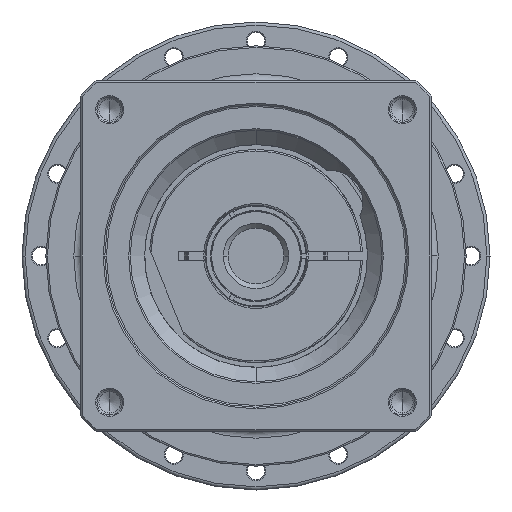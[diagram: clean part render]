
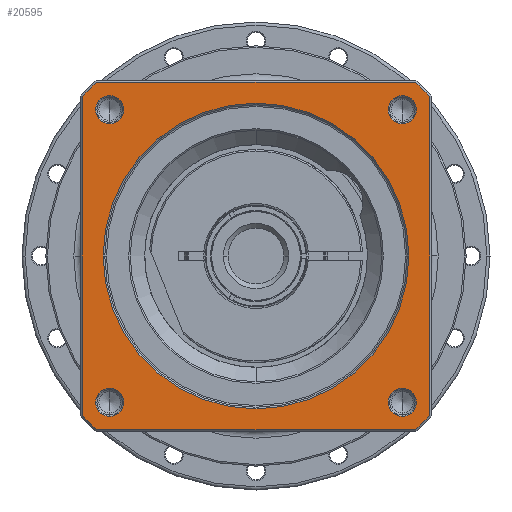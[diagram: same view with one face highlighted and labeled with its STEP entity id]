
A CAD part, left-side view. The second image highlights one B-rep face of the part: STEP entity #20595.
In plain terms, the highlighted planar face has unit normal (-1, 0, 0) as drawn and (0, 0, 1) by its records, which use the part's own axes.
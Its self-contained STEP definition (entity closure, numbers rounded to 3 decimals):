
#19361=CARTESIAN_POINT('',(0.,0.,
36.));
#19362=DIRECTION('',(0.,0.,-1.));
#19363=DIRECTION('',(0.,-1.,0.));
#19364=AXIS2_PLACEMENT_3D('',#19361,#19362,#19363);
#19366=CARTESIAN_POINT('',(0.,0.,
36.));
#19367=DIRECTION('',(0.,0.,-1.));
#19368=DIRECTION('',(0.,1.,0.));
#19369=AXIS2_PLACEMENT_3D('',#19366,#19367,#19368);
#19371=CARTESIAN_POINT('',(0.,0.,36.));
#19372=DIRECTION('',(0.,0.,1.));
#19373=DIRECTION('',(-0.736,-0.676,0.));
#19374=AXIS2_PLACEMENT_3D('',#19371,#19372,#19373);
#19386=DIRECTION('',(1.,0.,0.));
#19387=VECTOR('',#19386,100.115);
#19388=CARTESIAN_POINT('',(-50.057,-54.5,36.));
#19389=LINE('',#19388,#19387);
#19399=CARTESIAN_POINT('',(0.,0.,36.));
#19400=DIRECTION('',(0.,0.,1.));
#19401=DIRECTION('',(0.676,-0.736,0.));
#19402=AXIS2_PLACEMENT_3D('',#19399,#19400,#19401);
#19414=DIRECTION('',(0.,1.,0.));
#19415=VECTOR('',#19414,100.115);
#19416=CARTESIAN_POINT('',(54.5,-50.057,36.));
#19417=LINE('',#19416,#19415);
#19427=CARTESIAN_POINT('',(0.,0.,36.));
#19428=DIRECTION('',(0.,0.,1.));
#19429=DIRECTION('',(0.736,0.676,0.));
#19430=AXIS2_PLACEMENT_3D('',#19427,#19428,#19429);
#19442=DIRECTION('',(-1.,0.,0.));
#19443=VECTOR('',#19442,100.115);
#19444=CARTESIAN_POINT('',(50.057,54.5,36.));
#19445=LINE('',#19444,#19443);
#19450=CARTESIAN_POINT('',(0.,0.,36.));
#19451=DIRECTION('',(0.,0.,1.));
#19452=DIRECTION('',(-0.676,0.736,0.));
#19453=AXIS2_PLACEMENT_3D('',#19450,#19451,#19452);
#19470=DIRECTION('',(0.,-1.,0.));
#19471=VECTOR('',#19470,100.115);
#19472=CARTESIAN_POINT('',(-54.5,50.057,36.));
#19473=LINE('',#19472,#19471);
#19897=CARTESIAN_POINT('',(-45.962,45.962,36.));
#19898=DIRECTION('',(0.,0.,1.));
#19899=DIRECTION('',(-1.,0.,0.));
#19900=AXIS2_PLACEMENT_3D('',#19897,#19898,#19899);
#19915=CARTESIAN_POINT('',(-45.962,45.962,36.));
#19916=DIRECTION('',(0.,0.,1.));
#19917=DIRECTION('',(1.,0.,0.));
#19918=AXIS2_PLACEMENT_3D('',#19915,#19916,#19917);
#19951=CARTESIAN_POINT('',(45.962,45.962,36.));
#19952=DIRECTION('',(0.,0.,1.));
#19953=DIRECTION('',(-1.,0.,0.));
#19954=AXIS2_PLACEMENT_3D('',#19951,#19952,#19953);
#19969=CARTESIAN_POINT('',(45.962,45.962,36.));
#19970=DIRECTION('',(0.,0.,1.));
#19971=DIRECTION('',(1.,0.,0.));
#19972=AXIS2_PLACEMENT_3D('',#19969,#19970,#19971);
#20005=CARTESIAN_POINT('',(45.962,-45.962,36.));
#20006=DIRECTION('',(0.,0.,1.));
#20007=DIRECTION('',(-1.,0.,0.));
#20008=AXIS2_PLACEMENT_3D('',#20005,#20006,#20007);
#20023=CARTESIAN_POINT('',(45.962,-45.962,36.));
#20024=DIRECTION('',(0.,0.,1.));
#20025=DIRECTION('',(1.,0.,0.));
#20026=AXIS2_PLACEMENT_3D('',#20023,#20024,#20025);
#20059=CARTESIAN_POINT('',(-45.962,-45.962,36.));
#20060=DIRECTION('',(0.,0.,1.));
#20061=DIRECTION('',(-1.,0.,0.));
#20062=AXIS2_PLACEMENT_3D('',#20059,#20060,#20061);
#20077=CARTESIAN_POINT('',(-45.962,-45.962,36.));
#20078=DIRECTION('',(0.,0.,1.));
#20079=DIRECTION('',(1.,0.,0.));
#20080=AXIS2_PLACEMENT_3D('',#20077,#20078,#20079);
#20113=CARTESIAN_POINT('',(54.5,-50.057,36.));
#20114=CARTESIAN_POINT('',(54.5,50.057,36.));
#20115=VERTEX_POINT('',#20113);
#20116=VERTEX_POINT('',#20114);
#20121=CARTESIAN_POINT('',(50.057,-54.5,36.));
#20122=VERTEX_POINT('',#20121);
#20125=CARTESIAN_POINT('',(-50.057,-54.5,36.));
#20126=VERTEX_POINT('',#20125);
#20129=CARTESIAN_POINT('',(-54.5,-50.057,36.));
#20130=VERTEX_POINT('',#20129);
#20133=CARTESIAN_POINT('',(-54.5,50.057,36.));
#20134=VERTEX_POINT('',#20133);
#20137=CARTESIAN_POINT('',(-50.057,54.5,36.));
#20138=VERTEX_POINT('',#20137);
#20141=CARTESIAN_POINT('',(50.057,54.5,36.));
#20142=VERTEX_POINT('',#20141);
#20151=CARTESIAN_POINT('',(-50.362,45.962,36.));
#20152=CARTESIAN_POINT('',(-41.562,45.962,36.));
#20153=VERTEX_POINT('',#20151);
#20154=VERTEX_POINT('',#20152);
#20177=CARTESIAN_POINT('',(50.362,45.962,36.));
#20178=CARTESIAN_POINT('',(41.562,45.962,36.));
#20179=VERTEX_POINT('',#20177);
#20180=VERTEX_POINT('',#20178);
#20185=CARTESIAN_POINT('',(50.362,-45.962,36.));
#20186=CARTESIAN_POINT('',(41.562,-45.962,36.));
#20187=VERTEX_POINT('',#20185);
#20188=VERTEX_POINT('',#20186);
#20193=CARTESIAN_POINT('',(-41.562,-45.962,36.));
#20194=CARTESIAN_POINT('',(-50.362,-45.962,36.));
#20195=VERTEX_POINT('',#20193);
#20196=VERTEX_POINT('',#20194);
#20201=CARTESIAN_POINT('',(0.,-48.,36.));
#20202=CARTESIAN_POINT('',(0.,48.,36.));
#20203=VERTEX_POINT('',#20201);
#20204=VERTEX_POINT('',#20202);
#20543=CARTESIAN_POINT('',(0.,0.,36.));
#20544=DIRECTION('',(0.,0.,1.));
#20545=DIRECTION('',(1.,0.,0.));
#20546=AXIS2_PLACEMENT_3D('',#20543,#20544,#20545);
#20547=PLANE('',#20546);
#20549=ORIENTED_EDGE('',*,*,#20548,.F.);
#20551=ORIENTED_EDGE('',*,*,#20550,.F.);
#20553=ORIENTED_EDGE('',*,*,#20552,.F.);
#20555=ORIENTED_EDGE('',*,*,#20554,.F.);
#20557=ORIENTED_EDGE('',*,*,#20556,.F.);
#20559=ORIENTED_EDGE('',*,*,#20558,.F.);
#20561=ORIENTED_EDGE('',*,*,#20560,.F.);
#20563=ORIENTED_EDGE('',*,*,#20562,.F.);
#20564=EDGE_LOOP('',(#20549,#20551,#20553,#20555,#20557,#20559,#20561,#20563));
#20565=FACE_OUTER_BOUND('',#20564,.F.);
#20566=ORIENTED_EDGE('',*,*,#20533,.F.);
#20568=ORIENTED_EDGE('',*,*,#20567,.F.);
#20569=EDGE_LOOP('',(#20566,#20568));
#20570=FACE_BOUND('',#20569,.F.);
#20572=ORIENTED_EDGE('',*,*,#20571,.T.);
#20574=ORIENTED_EDGE('',*,*,#20573,.T.);
#20575=EDGE_LOOP('',(#20572,#20574));
#20576=FACE_BOUND('',#20575,.F.);
#20578=ORIENTED_EDGE('',*,*,#20577,.T.);
#20580=ORIENTED_EDGE('',*,*,#20579,.T.);
#20581=EDGE_LOOP('',(#20578,#20580));
#20582=FACE_BOUND('',#20581,.F.);
#20584=ORIENTED_EDGE('',*,*,#20583,.T.);
#20586=ORIENTED_EDGE('',*,*,#20585,.T.);
#20587=EDGE_LOOP('',(#20584,#20586));
#20588=FACE_BOUND('',#20587,.F.);
#20590=ORIENTED_EDGE('',*,*,#20589,.T.);
#20592=ORIENTED_EDGE('',*,*,#20591,.T.);
#20593=EDGE_LOOP('',(#20590,#20592));
#20594=FACE_BOUND('',#20593,.F.);
#20595=ADVANCED_FACE('',(#20565,#20570,#20576,#20582,#20588,#20594),#20547,.T.);
#19365=CIRCLE('',#19364,48.);
#19370=CIRCLE('',#19369,48.);
#19375=CIRCLE('',#19374,74.);
#19403=CIRCLE('',#19402,74.);
#19431=CIRCLE('',#19430,74.);
#19454=CIRCLE('',#19453,74.);
#19901=CIRCLE('',#19900,4.4);
#19919=CIRCLE('',#19918,4.4);
#19955=CIRCLE('',#19954,4.4);
#19973=CIRCLE('',#19972,4.4);
#20009=CIRCLE('',#20008,4.4);
#20027=CIRCLE('',#20026,4.4);
#20063=CIRCLE('',#20062,4.4);
#20081=CIRCLE('',#20080,4.4);
#20533=EDGE_CURVE('',#20203,#20204,#19365,.T.);
#20548=EDGE_CURVE('',#20130,#20126,#19375,.T.);
#20550=EDGE_CURVE('',#20134,#20130,#19473,.T.);
#20552=EDGE_CURVE('',#20138,#20134,#19454,.T.);
#20554=EDGE_CURVE('',#20142,#20138,#19445,.T.);
#20556=EDGE_CURVE('',#20116,#20142,#19431,.T.);
#20558=EDGE_CURVE('',#20115,#20116,#19417,.T.);
#20560=EDGE_CURVE('',#20122,#20115,#19403,.T.);
#20562=EDGE_CURVE('',#20126,#20122,#19389,.T.);
#20567=EDGE_CURVE('',#20204,#20203,#19370,.T.);
#20571=EDGE_CURVE('',#20153,#20154,#19901,.T.);
#20573=EDGE_CURVE('',#20154,#20153,#19919,.T.);
#20577=EDGE_CURVE('',#20180,#20179,#19955,.T.);
#20579=EDGE_CURVE('',#20179,#20180,#19973,.T.);
#20583=EDGE_CURVE('',#20188,#20187,#20009,.T.);
#20585=EDGE_CURVE('',#20187,#20188,#20027,.T.);
#20589=EDGE_CURVE('',#20196,#20195,#20063,.T.);
#20591=EDGE_CURVE('',#20195,#20196,#20081,.T.);
